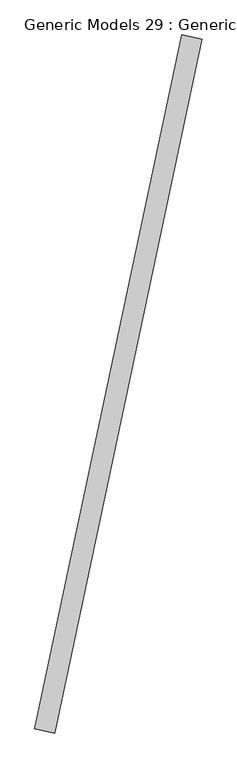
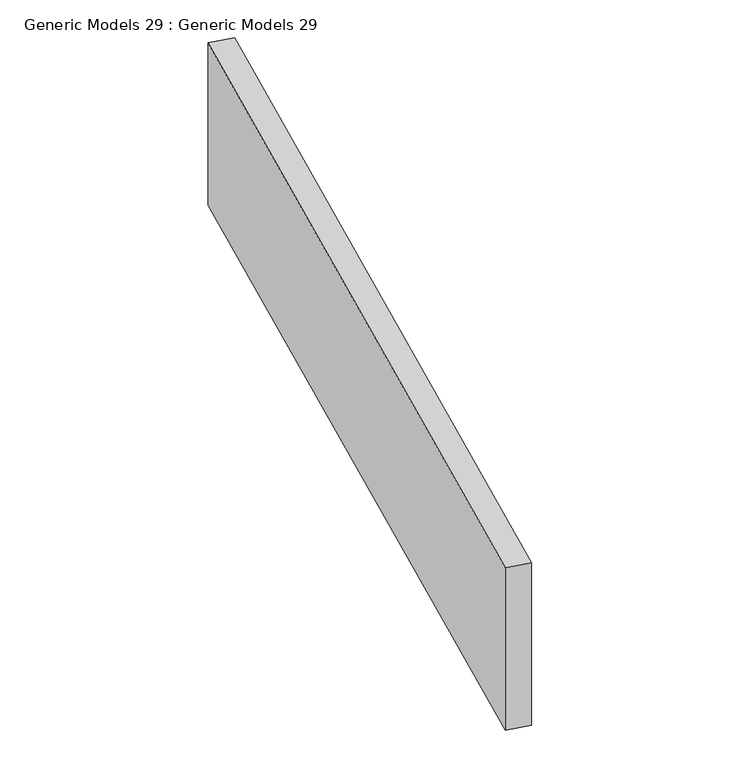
"""IFC4 building model written with IfcOpenShell, lengths in millimetres: proxy geometry, Generic Models 29 : Generic Models 29."""

from ifc_helpers import new_model, si_unit, frame, origin, place, context, project, spatial, polyline, outline, extrude, source, transform, mapped, element, save


def generic_models_29_generic_models_29_9aea2b4d(model_context):
    return source(origin(), model_context, "Body", "SweptSolid", [
        extrude(outline(polyline([(496626.5939117, -23491.6421425), (495836.5294865, -27208.6030253), (495729.3323996, -27185.8175811), (496519.3968247, -23468.8566983), (496626.5939117, -23491.6421425)])), frame((0.0, 0.0, 1202.607718), z_axis=(0.0, 0.0, 1.0), x_axis=(1.0, 0.0, 0.0)), (0.0, 0.0, 1.0), 784.0),
    ])


if __name__ == "__main__":
    model = new_model("IFC4")
    model_context = context("Model", 3, world=origin())
    ifc_project = project(units=[si_unit("LENGTHUNIT", "METRE", prefix="MILLI")], contexts=[model_context])
    site = spatial("IfcSite", under=ifc_project)
    building = spatial("IfcBuilding", under=site)
    placement = place(None, origin())
    generic_models_29_generic_models_29_shape = generic_models_29_generic_models_29_9aea2b4d(model_context)
    element("IfcBuildingElementProxy", 1, Name="Generic Models 29 : Generic Models 29", ObjectType="Generic Models 29 : Generic Models 29", at=placement, inside=building, context=model_context, shape_type="MappedRepresentation", body=[
        mapped(generic_models_29_generic_models_29_shape, transform((0.0, 0.0, 0.0), x_axis=(1.0, 0.0, 0.0), y_axis=(0.0, 1.0, 0.0), z_axis=(0.0, 0.0, 1.0))),
    ])
    save(model, "model.ifc")
